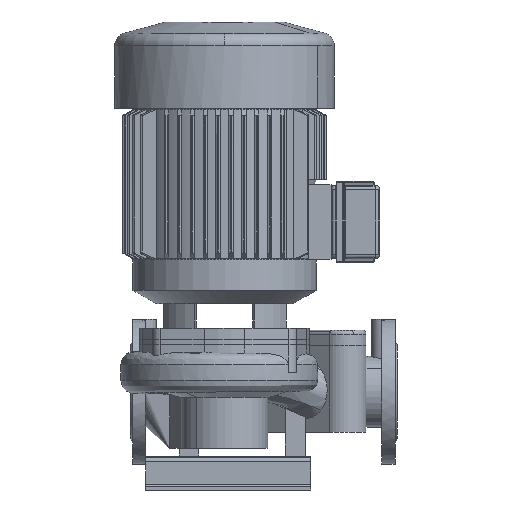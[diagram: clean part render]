
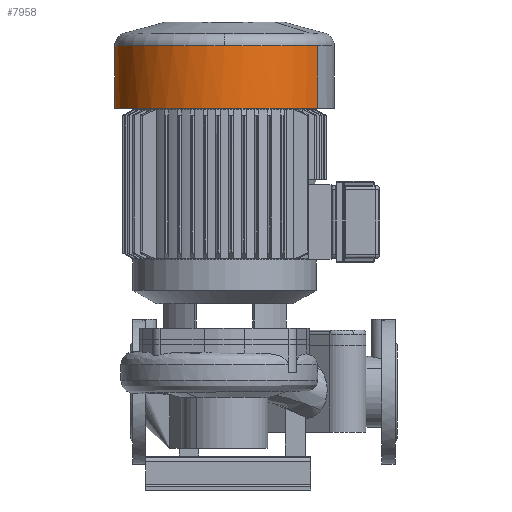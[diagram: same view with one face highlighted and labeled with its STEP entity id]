
A CAD part, left-side view. The second image highlights one B-rep face of the part: STEP entity #7958.
In plain terms, the highlighted cylindrical face has radius 140 mm (diameter 280 mm), a partial arc.
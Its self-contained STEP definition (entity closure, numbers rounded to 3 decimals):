
#7958=ADVANCED_FACE('',(#17624),#17625,.T.);
#8038=EDGE_CURVE('',#17746,#17749,#17750,.T.);
#8042=EDGE_CURVE('',#17755,#17756,#17757,.T.);
#8044=EDGE_CURVE('',#17749,#17759,#17760,.T.);
#17624=FACE_OUTER_BOUND('',#36714,.T.);
#17625=CYLINDRICAL_SURFACE('',#36715,140.0);
#17746=VERTEX_POINT('',#36840);
#17749=VERTEX_POINT('',#36844);
#17750=CIRCLE('',#36845,140.0);
#17755=VERTEX_POINT('',#36852);
#17756=VERTEX_POINT('',#36853);
#17757=CIRCLE('',#36854,140.0);
#17759=VERTEX_POINT('',#36857);
#17760=CIRCLE('',#36858,140.0);
#36714=EDGE_LOOP('',(#56021,#56022,#56023,#56024,#56025));
#36715=AXIS2_PLACEMENT_3D('',#56026,#56027,#56028);
#36840=CARTESIAN_POINT('',(-171.821,191.467,245.12));
#36844=CARTESIAN_POINT('',(-385.93,72.69,245.12));
#36845=AXIS2_PLACEMENT_3D('',#56369,#56370,#56371);
#36852=CARTESIAN_POINT('',(-171.821,191.467,165.12));
#36853=CARTESIAN_POINT('',(-320.039,-46.087,165.12));
#36854=AXIS2_PLACEMENT_3D('',#56375,#56376,#56377);
#36857=CARTESIAN_POINT('',(-320.039,-46.087,245.12));
#36858=AXIS2_PLACEMENT_3D('',#56378,#56379,#56380);
#56021=ORIENTED_EDGE('',*,*,#65859,.F.);
#56022=ORIENTED_EDGE('',*,*,#8042,.T.);
#56023=ORIENTED_EDGE('',*,*,#65860,.F.);
#56024=ORIENTED_EDGE('',*,*,#8044,.F.);
#56025=ORIENTED_EDGE('',*,*,#8038,.F.);
#56026=CARTESIAN_POINT('',(-245.93,72.69,205.12));
#56027=DIRECTION('',(0.0,-0.0,1.0));
#56028=DIRECTION('',(0.529,0.848,0.0));
#56369=CARTESIAN_POINT('',(-245.93,72.69,245.12));
#56370=DIRECTION('',(0.0,-0.0,1.0));
#56371=DIRECTION('',(0.529,0.848,0.0));
#56375=CARTESIAN_POINT('',(-245.93,72.69,165.12));
#56376=DIRECTION('',(0.0,-0.0,1.0));
#56377=DIRECTION('',(0.529,0.848,0.0));
#56378=CARTESIAN_POINT('',(-245.93,72.69,245.12));
#56379=DIRECTION('',(0.0,-0.0,1.0));
#56380=DIRECTION('',(0.529,0.848,0.0));
#65859=EDGE_CURVE('',#17755,#17746,#68219,.T.);
#65860=EDGE_CURVE('',#17759,#17756,#68220,.T.);
#68219=LINE('',#73201,#73202);
#68220=LINE('',#73203,#73204);
#73201=CARTESIAN_POINT('',(-171.821,191.467,205.12));
#73202=VECTOR('',#74884,1.0);
#73203=CARTESIAN_POINT('',(-320.039,-46.087,205.12));
#73204=VECTOR('',#74885,1.0);
#74884=DIRECTION('',(0.0,0.0,1.0));
#74885=DIRECTION('',(-0.0,-0.0,-1.0));
